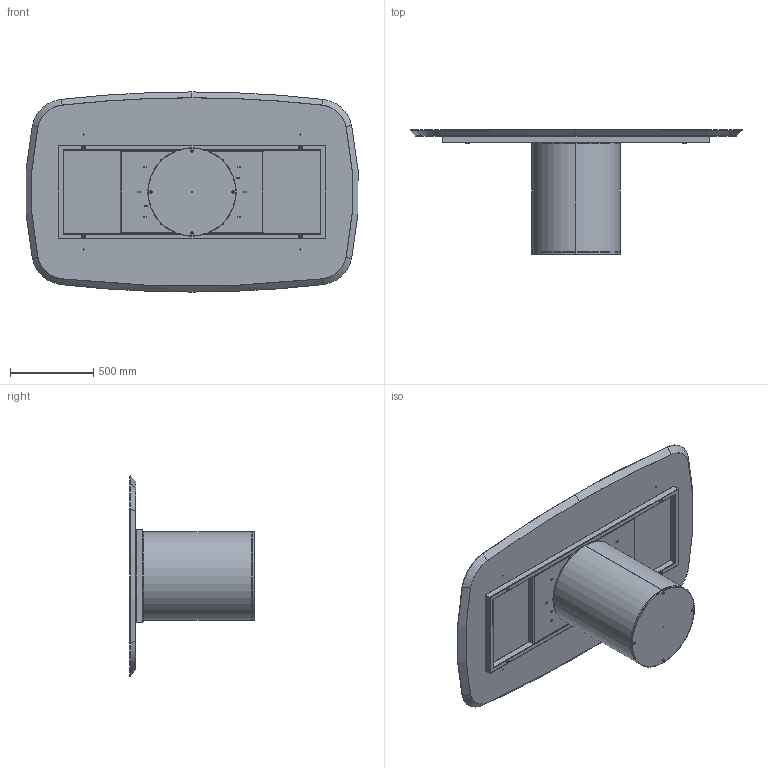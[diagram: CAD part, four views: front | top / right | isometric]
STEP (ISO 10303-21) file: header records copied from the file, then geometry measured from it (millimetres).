
FILE_DESCRIPTION (( 'STEP AP203' ), '1' );
FILE_NAME ('CI41W.STEP', '2024-08-08T07:25:35', ( '' ), ( '' ), 'SwSTEP 2.0', 'SolidWorks 2022', '' );
FILE_SCHEMA (( 'CONFIG_CONTROL_DESIGN' ));
Length unit declared in the file: millimetre
Products named in the file (12): TTAV01_01-05-TELAIO UNIVERSALE X TAVOLI 180 240cm; rondella M8_8X24; C2B000000_02-01-ZAVORRA IN FERRO D.530mm; TTAV01-05-TELAIO UNIVERSALE X TAVOLI 180 240cm; COLLO TELAIO UNIVERSALE TTAV01 CON FERRAMENTA_MTG TOP LEGNO-MARMO-KING; CI41W; M8xXXmm_hex_M8X20mm; M8xXXmm_M8x55mm; TTAV01_02-05-VASSOIO IRRIGIDIMENTO TELAIO UNIVERSALE; W4XCMXX-00-Piani Sagomati legno_ 2000 x 1200; C2B000000_01-00-struttura cilindro D.530mm; C2B000000-03-CILINDRO BASE D.530mm_Normale
Assembly tree (20 placements, depth 4):
  CI41W
    C2B000000-03-CILINDRO BASE D.530mm_Normale
      C2B000000_01-00-struttura cilindro D.530mm
      C2B000000_02-01-ZAVORRA IN FERRO D.530mm
      M8xXXmm_hex_M8X20mm  x4
    COLLO TELAIO UNIVERSALE TTAV01 CON FERRAMENTA_MTG TOP LEGNO-MARMO-KING
      TTAV01-05-TELAIO UNIVERSALE X TAVOLI 180 240cm
        TTAV01_02-05-VASSOIO IRRIGIDIMENTO TELAIO UNIVERSALE
        TTAV01_01-05-TELAIO UNIVERSALE X TAVOLI 180 240cm
      rondella M8_8X24  x4
      M8xXXmm_M8x55mm  x4
    W4XCMXX-00-Piani Sagomati legno_ 2000 x 1200
Bounding box: 1990.53 x 748 x 1200 mm (x, y, z)
Volume: 90132989 mm3; surface area: 9684119.4 mm2
Topology: 20 solids, 20 shells, 759 faces, 1784 edges, 1033 vertices
Faces by surface type: plane 292, cylinder 267, cone 113, torus 65, sphere 22
Entity records: 16719 total; most frequent: DIRECTION 2819, CARTESIAN_POINT 2621, ORIENTED_EDGE 2464, EDGE_CURVE 1232, AXIS2_PLACEMENT_3D 1072, VERTEX_POINT 756, LINE 675, VECTOR 675
